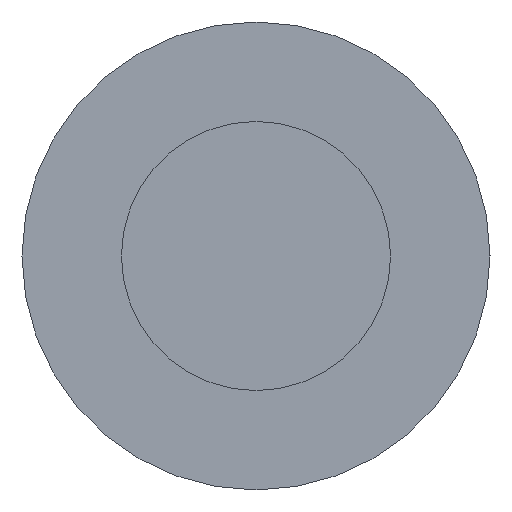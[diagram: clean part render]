
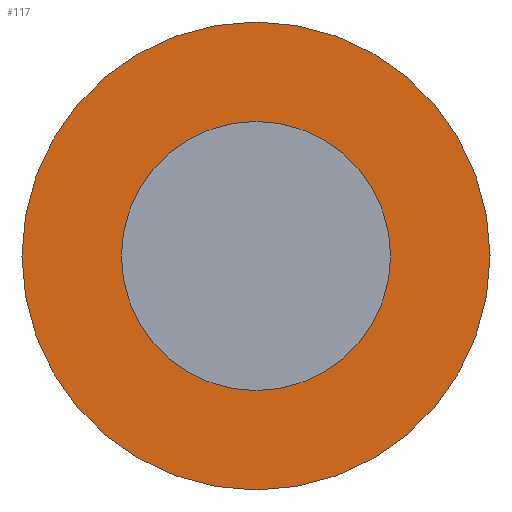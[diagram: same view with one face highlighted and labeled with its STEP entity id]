
A CAD part, left-side view. The second image highlights one B-rep face of the part: STEP entity #117.
In plain terms, the highlighted planar face has unit normal (-1, 0, 0).
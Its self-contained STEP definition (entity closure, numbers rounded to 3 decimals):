
#26=ORIENTED_EDGE('',*,*,#35,.F.);
#27=ORIENTED_EDGE('',*,*,#34,.T.);
#34=EDGE_CURVE('',#39,#39,#44,.T.);
#35=EDGE_CURVE('',#40,#40,#45,.T.);
#39=VERTEX_POINT('',#167);
#40=VERTEX_POINT('',#170);
#44=CIRCLE('',#129,1.15);
#45=CIRCLE('',#131,2.);
#51=EDGE_LOOP('',(#26));
#52=EDGE_LOOP('',(#27));
#61=FACE_BOUND('',#51,.T.);
#62=FACE_BOUND('',#52,.T.);
#69=PLANE('',#130);
#117=ADVANCED_FACE('',(#61,#62),#69,.F.);
#129=AXIS2_PLACEMENT_3D('',#166,#145,#146);
#130=AXIS2_PLACEMENT_3D('',#168,#147,#148);
#131=AXIS2_PLACEMENT_3D('',#169,#149,#150);
#145=DIRECTION('',(1.,0.,0.));
#146=DIRECTION('',(0.,0.,-1.));
#147=DIRECTION('',(1.,0.,0.));
#148=DIRECTION('',(0.,0.,-1.));
#149=DIRECTION('',(1.,0.,0.));
#150=DIRECTION('',(0.,0.,-1.));
#166=CARTESIAN_POINT('',(0.,0.,0.));
#167=CARTESIAN_POINT('',(0.,0.,-1.15));
#168=CARTESIAN_POINT('',(0.,1.15,0.));
#169=CARTESIAN_POINT('',(0.,0.,0.));
#170=CARTESIAN_POINT('',(0.,0.,-2.));
